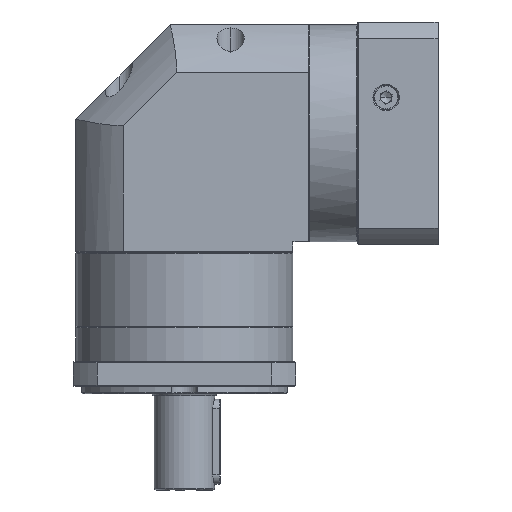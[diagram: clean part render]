
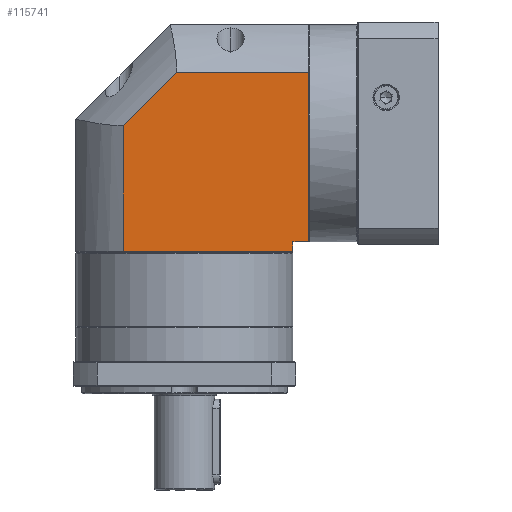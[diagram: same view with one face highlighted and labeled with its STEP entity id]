
A CAD part, front view. The second image highlights one B-rep face of the part: STEP entity #115741.
In plain terms, the highlighted planar face has unit normal (0, -1, 0).
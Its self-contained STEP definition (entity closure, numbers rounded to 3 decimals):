
#3966 = DIRECTION ( 'NONE',  ( -1., 0., 0. ) ) ;
#7486 = LINE ( 'NONE', #128107, #25315 ) ;
#7806 = CARTESIAN_POINT ( 'NONE',  ( 104.473, 31.397, -17.795 ) ) ;
#7850 = VECTOR ( 'NONE', #71579, 1000. ) ;
#8254 = VECTOR ( 'NONE', #48981, 1000. ) ;
#10000 = ORIENTED_EDGE ( 'NONE', *, *, #89953, .F. ) ;
#11392 = DIRECTION ( 'NONE',  ( 0.707, 0., 0.707 ) ) ;
#11756 = VECTOR ( 'NONE', #73862, 1000. ) ;
#12387 = EDGE_CURVE ( 'NONE', #90822, #97408, #125219, .T. ) ;
#16412 = DIRECTION ( 'NONE',  ( 1., 0., 0. ) ) ;
#20161 = EDGE_CURVE ( 'NONE', #76329, #65628, #7486, .T. ) ;
#22353 = ORIENTED_EDGE ( 'NONE', *, *, #12387, .F. ) ;
#23980 = LINE ( 'NONE', #24819, #130980 ) ;
#24819 = CARTESIAN_POINT ( 'NONE',  ( -18.927, 31.397, -22.795 ) ) ;
#25315 = VECTOR ( 'NONE', #3966, 1000. ) ;
#32194 = ORIENTED_EDGE ( 'NONE', *, *, #66068, .F. ) ;
#35403 = LINE ( 'NONE', #124102, #7850 ) ;
#36009 = LINE ( 'NONE', #107471, #99062 ) ;
#36307 = PLANE ( 'NONE',  #90975 ) ;
#41637 = FACE_OUTER_BOUND ( 'NONE', #75043, .T. ) ;
#47211 = CARTESIAN_POINT ( 'NONE',  ( -18.927, 31.397, -29.295 ) ) ;
#48981 = DIRECTION ( 'NONE',  ( 0., 0., -1. ) ) ;
#49607 = ORIENTED_EDGE ( 'NONE', *, *, #76948, .F. ) ;
#50266 = VERTEX_POINT ( 'NONE', #101120 ) ;
#58110 = DIRECTION ( 'NONE',  ( 0., 1., 0. ) ) ;
#60204 = LINE ( 'NONE', #81447, #8254 ) ;
#61908 = VECTOR ( 'NONE', #11392, 1000. ) ;
#63818 = VERTEX_POINT ( 'NONE', #70287 ) ;
#65418 = VERTEX_POINT ( 'NONE', #107532 ) ;
#65628 = VERTEX_POINT ( 'NONE', #81646 ) ;
#66068 = EDGE_CURVE ( 'NONE', #63818, #65418, #35403, .T. ) ;
#70287 = CARTESIAN_POINT ( 'NONE',  ( 6.173, 31.397, -22.795 ) ) ;
#71579 = DIRECTION ( 'NONE',  ( 0., 0., 1. ) ) ;
#73720 = CARTESIAN_POINT ( 'NONE',  ( 34.511, 31.397, 72.105 ) ) ;
#73862 = DIRECTION ( 'NONE',  ( 1., 0., 0. ) ) ;
#75043 = EDGE_LOOP ( 'NONE', ( #84190, #84148, #10000, #22353, #100144, #32194, #49607 ) ) ;
#76329 = VERTEX_POINT ( 'NONE', #7806 ) ;
#76948 = EDGE_CURVE ( 'NONE', #50266, #63818, #23980, .T. ) ;
#81447 = CARTESIAN_POINT ( 'NONE',  ( 96.073, 31.397, -29.295 ) ) ;
#81646 = CARTESIAN_POINT ( 'NONE',  ( 96.073, 31.397, -17.795 ) ) ;
#82834 = LINE ( 'NONE', #114149, #61908 ) ;
#84148 = ORIENTED_EDGE ( 'NONE', *, *, #20161, .F. ) ;
#84190 = ORIENTED_EDGE ( 'NONE', *, *, #97210, .F. ) ;
#87039 = DIRECTION ( 'NONE',  ( 0., 0., -1. ) ) ;
#89953 = EDGE_CURVE ( 'NONE', #97408, #76329, #36009, .T. ) ;
#90822 = VERTEX_POINT ( 'NONE', #73720 ) ;
#90975 = AXIS2_PLACEMENT_3D ( 'NONE', #47211, #58110, #16412 ) ;
#97210 = EDGE_CURVE ( 'NONE', #65628, #50266, #60204, .T. ) ;
#97408 = VERTEX_POINT ( 'NONE', #120681 ) ;
#97602 = DIRECTION ( 'NONE',  ( -1., 0., 0. ) ) ;
#99062 = VECTOR ( 'NONE', #87039, 1000. ) ;
#100144 = ORIENTED_EDGE ( 'NONE', *, *, #109593, .F. ) ;
#101120 = CARTESIAN_POINT ( 'NONE',  ( 96.073, 31.397, -22.795 ) ) ;
#107471 = CARTESIAN_POINT ( 'NONE',  ( 104.473, 31.397, -29.295 ) ) ;
#107532 = CARTESIAN_POINT ( 'NONE',  ( 6.173, 31.397, 43.767 ) ) ;
#109593 = EDGE_CURVE ( 'NONE', #65418, #90822, #82834, .T. ) ;
#114149 = CARTESIAN_POINT ( 'NONE',  ( 6.173, 31.397, 43.767 ) ) ;
#115023 = CARTESIAN_POINT ( 'NONE',  ( -18.927, 31.397, 72.105 ) ) ;
#115741 = ADVANCED_FACE ( 'NONE', ( #41637 ), #36307, .F. ) ;
#120681 = CARTESIAN_POINT ( 'NONE',  ( 104.473, 31.397, 72.105 ) ) ;
#124102 = CARTESIAN_POINT ( 'NONE',  ( 6.173, 31.397, -29.295 ) ) ;
#125219 = LINE ( 'NONE', #115023, #11756 ) ;
#128107 = CARTESIAN_POINT ( 'NONE',  ( -18.927, 31.397, -17.795 ) ) ;
#130980 = VECTOR ( 'NONE', #97602, 1000. ) ;
